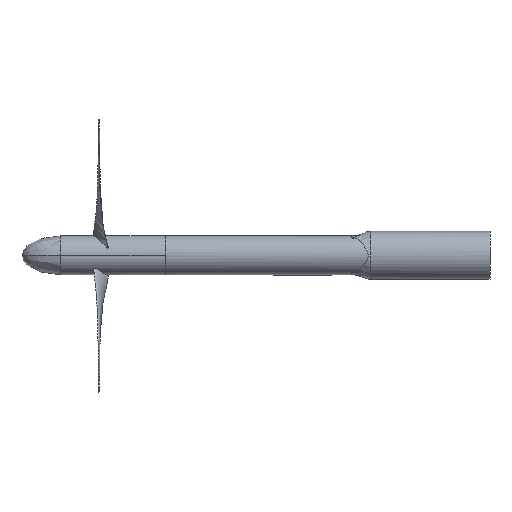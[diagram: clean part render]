
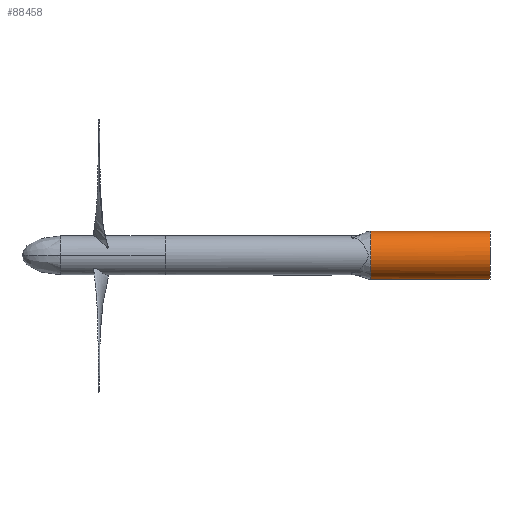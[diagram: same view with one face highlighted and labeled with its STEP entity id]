
A CAD part, front view. The second image highlights one B-rep face of the part: STEP entity #88458.
In plain terms, the highlighted cylindrical face has radius 124 mm (diameter 248 mm), a partial arc.
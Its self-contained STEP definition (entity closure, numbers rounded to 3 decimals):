
#596 = DIRECTION ( 'NONE',  ( 1., 0., 0. ) ) ;
#725 = CARTESIAN_POINT ( 'NONE',  ( 200., 7.634, 123.224 ) ) ;
#1619 = VERTEX_POINT ( 'NONE', #15550 ) ;
#2030 = B_SPLINE_CURVE_WITH_KNOTS ( 'NONE', 3,
 ( #2557, #48374, #66019, #29583 ),
 .UNSPECIFIED., .F., .F.,
 ( 4, 4 ),
 ( 0., 0.068 ),
 .UNSPECIFIED. ) ;
#2470 = CARTESIAN_POINT ( 'NONE',  ( 200., -86.903, 56.775 ) ) ;
#2557 = CARTESIAN_POINT ( 'NONE',  ( 200., 17.862, -123.866 ) ) ;
#3104 = EDGE_CURVE ( 'NONE', #99327, #56726, #2030, .T. ) ;
#3505 = ORIENTED_EDGE ( 'NONE', *, *, #110103, .F. ) ;
#3529 = DIRECTION ( 'NONE',  ( 1., 0., 0. ) ) ;
#3926 = CARTESIAN_POINT ( 'NONE',  ( 816., 23.626, 0. ) ) ;
#4626 = CARTESIAN_POINT ( 'NONE',  ( 200., -35.704, -109.179 ) ) ;
#5786 = CARTESIAN_POINT ( 'NONE',  ( 200., -21.191, -115.894 ) ) ;
#9545 = CARTESIAN_POINT ( 'NONE',  ( 200., 15.63, 124. ) ) ;
#13451 = CARTESIAN_POINT ( 'NONE',  ( 200., 17.862, -123.866 ) ) ;
#14022 = CARTESIAN_POINT ( 'NONE',  ( 200., -89.422, -51.577 ) ) ;
#14028 = CARTESIAN_POINT ( 'NONE',  ( 200., 23.626, -124. ) ) ;
#14474 = DIRECTION ( 'NONE',  ( 0., 0., -1. ) ) ;
#15182 = CARTESIAN_POINT ( 'NONE',  ( 200., -55.586, -95.737 ) ) ;
#15550 = CARTESIAN_POINT ( 'NONE',  ( 816., 23.626, 124. ) ) ;
#16349 = CARTESIAN_POINT ( 'NONE',  ( 200., 23.626, 124. ) ) ;
#16898 = AXIS2_PLACEMENT_3D ( 'NONE', #3926, #23293, #14474 ) ;
#19469 = EDGE_LOOP ( 'NONE', ( #85654, #71691, #42681, #52670, #3505 ) ) ;
#21445 = VERTEX_POINT ( 'NONE', #27575 ) ;
#23293 = DIRECTION ( 'NONE',  ( 1., 0., 0. ) ) ;
#23420 = CARTESIAN_POINT ( 'NONE',  ( 200., -97.229, -28.883 ) ) ;
#24003 = CARTESIAN_POINT ( 'NONE',  ( 200., -61.606, -90.418 ) ) ;
#25331 = CARTESIAN_POINT ( 'NONE',  ( 200., 23.626, -124. ) ) ;
#27575 = CARTESIAN_POINT ( 'NONE',  ( 816., 23.626, -124. ) ) ;
#28329 = CARTESIAN_POINT ( 'NONE',  ( 200., 23.626, 124. ) ) ;
#29583 = CARTESIAN_POINT ( 'NONE',  ( 200., 23.626, -124. ) ) ;
#30566 = DIRECTION ( 'NONE',  ( 0., 0., -1. ) ) ;
#32827 = CARTESIAN_POINT ( 'NONE',  ( 200., -99.937, -13.122 ) ) ;
#33409 = CARTESIAN_POINT ( 'NONE',  ( 200., -42.634, -105.117 ) ) ;
#34090 = AXIS2_PLACEMENT_3D ( 'NONE', #110558, #3529, #30566 ) ;
#36288 = DIRECTION ( 'NONE',  ( 1., 0., 0. ) ) ;
#36573 = CARTESIAN_POINT ( 'NONE',  ( 200., -8.059, 120.15 ) ) ;
#39835 = CARTESIAN_POINT ( 'NONE',  ( 200., 17.862, -123.866 ) ) ;
#40468 = CARTESIAN_POINT ( 'NONE',  ( 200., -95.11, -36.631 ) ) ;
#41044 = CARTESIAN_POINT ( 'NONE',  ( 200., -100.527, -5.111 ) ) ;
#42681 = ORIENTED_EDGE ( 'NONE', *, *, #3104, .T. ) ;
#47612 = CYLINDRICAL_SURFACE ( 'NONE', #34090, 124. ) ;
#48193 = FACE_OUTER_BOUND ( 'NONE', #19469, .T. ) ;
#48374 = CARTESIAN_POINT ( 'NONE',  ( 200., 19.782, -123.955 ) ) ;
#49295 = CARTESIAN_POINT ( 'NONE',  ( 200., 1.924, -122.348 ) ) ;
#52670 = ORIENTED_EDGE ( 'NONE', *, *, #64706, .T. ) ;
#56726 = VERTEX_POINT ( 'NONE', #14028 ) ;
#63601 = CARTESIAN_POINT ( 'NONE',  ( 200., -37.677, 108.083 ) ) ;
#64706 = EDGE_CURVE ( 'NONE', #56726, #21445, #98239, .T. ) ;
#66019 = CARTESIAN_POINT ( 'NONE',  ( 200., 21.704, -124. ) ) ;
#67521 = CARTESIAN_POINT ( 'NONE',  ( 200., -93.279, 42.11 ) ) ;
#68104 = CARTESIAN_POINT ( 'NONE',  ( 200., -68.75, 83.107 ) ) ;
#68689 = CARTESIAN_POINT ( 'NONE',  ( 200., -100.155, 10.876 ) ) ;
#71297 = CARTESIAN_POINT ( 'NONE',  ( 200., -51.05, 99.315 ) ) ;
#71691 = ORIENTED_EDGE ( 'NONE', *, *, #74072, .T. ) ;
#72441 = CARTESIAN_POINT ( 'NONE',  ( 200., -30.565, 111.818 ) ) ;
#73595 = CARTESIAN_POINT ( 'NONE',  ( 200., -15.756, 117.852 ) ) ;
#74072 = EDGE_CURVE ( 'NONE', #88705, #99327, #99658, .T. ) ;
#76217 = EDGE_CURVE ( 'NONE', #88705, #1619, #96928, .T. ) ;
#76343 = CARTESIAN_POINT ( 'NONE',  ( 200., 9.875, -123.494 ) ) ;
#77508 = CARTESIAN_POINT ( 'NONE',  ( 200., -99.194, 18.851 ) ) ;
#78096 = CARTESIAN_POINT ( 'NONE',  ( 200., -13.609, -118.548 ) ) ;
#82609 = CIRCLE ( 'NONE', #16898, 124. ) ;
#85052 = VECTOR ( 'NONE', #596, 1000. ) ;
#85654 = ORIENTED_EDGE ( 'NONE', *, *, #76217, .F. ) ;
#86345 = CARTESIAN_POINT ( 'NONE',  ( 200., -85.853, -58.774 ) ) ;
#88458 = ADVANCED_FACE ( 'NONE', ( #48193 ), #47612, .T. ) ;
#88705 = VERTEX_POINT ( 'NONE', #96405 ) ;
#95761 = CARTESIAN_POINT ( 'NONE',  ( 200., -95.756, 34.469 ) ) ;
#96405 = CARTESIAN_POINT ( 'NONE',  ( 200., 23.626, 124. ) ) ;
#96928 = LINE ( 'NONE', #16349, #99726 ) ;
#98239 = LINE ( 'NONE', #25331, #85052 ) ;
#99327 = VERTEX_POINT ( 'NONE', #39835 ) ;
#99658 = B_SPLINE_CURVE_WITH_KNOTS ( 'NONE', 3,
 ( #28329, #9545, #725, #36573, #73595, #72441, #63601, #71297, #107184, #68104, #113987, #112821, #2470, #67521, #95761, #77508, #68689, #41044, #32827, #23420, #40468, #14022, #86345, #104574, #112241, #24003, #15182, #33409, #4626, #5786, #78096, #49295, #76343, #13451 ),
 .UNSPECIFIED., .F., .F.,
 ( 4, 2, 2, 2, 2, 2, 2, 2, 2, 2, 2, 2, 2, 2, 2, 2, 4 ),
 ( 0.17, 0.222, 0.274, 0.325, 0.377, 0.429, 0.481, 0.533, 0.585, 0.637, 0.689, 0.741, 0.792, 0.844, 0.896, 0.948, 1. ),
 .UNSPECIFIED. ) ;
#99726 = VECTOR ( 'NONE', #36288, 1000. ) ;
#104574 = CARTESIAN_POINT ( 'NONE',  ( 200., -77.398, -72.347 ) ) ;
#107184 = CARTESIAN_POINT ( 'NONE',  ( 200., -57.311, 94.282 ) ) ;
#110103 = EDGE_CURVE ( 'NONE', #1619, #21445, #82609, .T. ) ;
#110558 = CARTESIAN_POINT ( 'NONE',  ( 200., 23.626, 0. ) ) ;
#112241 = CARTESIAN_POINT ( 'NONE',  ( 200., -72.513, -78.723 ) ) ;
#112821 = CARTESIAN_POINT ( 'NONE',  ( 200., -83.003, 63.799 ) ) ;
#113987 = CARTESIAN_POINT ( 'NONE',  ( 200., -73.927, 76.964 ) ) ;
